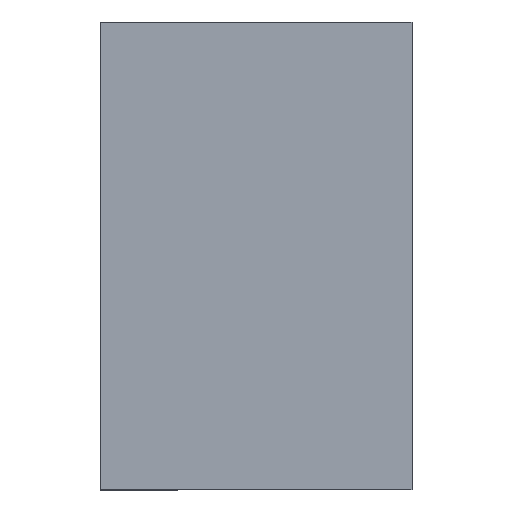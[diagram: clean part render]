
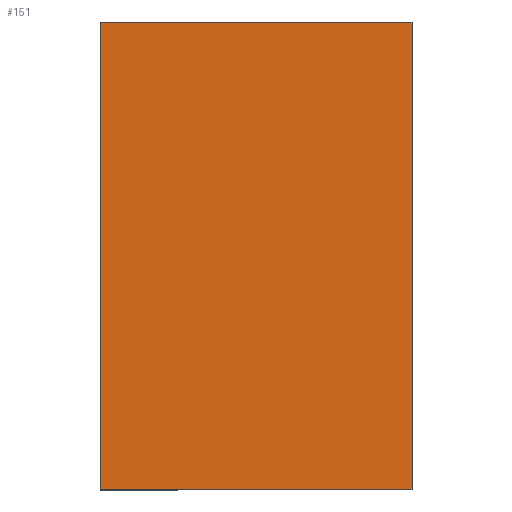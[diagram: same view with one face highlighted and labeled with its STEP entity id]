
A CAD part, front view. The second image highlights one B-rep face of the part: STEP entity #151.
In plain terms, the highlighted planar face has unit normal (0, -1, 0).
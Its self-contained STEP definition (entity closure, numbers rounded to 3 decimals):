
#18 = EDGE_CURVE ( 'NONE', #561, #497, #474, .T. ) ;
#51 = CARTESIAN_POINT ( 'NONE',  ( 0., 0., 1350. ) ) ;
#73 = ORIENTED_EDGE ( 'NONE', *, *, #608, .F. ) ;
#83 = LINE ( 'NONE', #129, #175 ) ;
#86 = EDGE_CURVE ( 'NONE', #497, #123, #426, .T. ) ;
#88 = CARTESIAN_POINT ( 'NONE',  ( 0., 0., 1350. ) ) ;
#115 = VECTOR ( 'NONE', #575, 1000. ) ;
#123 = VERTEX_POINT ( 'NONE', #275 ) ;
#129 = CARTESIAN_POINT ( 'NONE',  ( 0., 0., 0. ) ) ;
#144 = DIRECTION ( 'NONE',  ( 0., -1., 0. ) ) ;
#148 = DIRECTION ( 'NONE',  ( -1., 0., 0. ) ) ;
#151 = ADVANCED_FACE ( 'NONE', ( #476 ), #483, .T. ) ;
#175 = VECTOR ( 'NONE', #368, 1000. ) ;
#177 = CARTESIAN_POINT ( 'NONE',  ( 0., 0., 0. ) ) ;
#180 = ORIENTED_EDGE ( 'NONE', *, *, #510, .F. ) ;
#228 = AXIS2_PLACEMENT_3D ( 'NONE', #51, #144, #239 ) ;
#239 = DIRECTION ( 'NONE',  ( 1., 0., 0. ) ) ;
#261 = ORIENTED_EDGE ( 'NONE', *, *, #86, .T. ) ;
#269 = DIRECTION ( 'NONE',  ( 0., 0., -1. ) ) ;
#271 = CARTESIAN_POINT ( 'NONE',  ( -900., 0., 1350. ) ) ;
#275 = CARTESIAN_POINT ( 'NONE',  ( -900., 0., 0. ) ) ;
#310 = CARTESIAN_POINT ( 'NONE',  ( 0., 0., 1350. ) ) ;
#356 = ORIENTED_EDGE ( 'NONE', *, *, #18, .T. ) ;
#368 = DIRECTION ( 'NONE',  ( -1., 0., 0. ) ) ;
#387 = CARTESIAN_POINT ( 'NONE',  ( 0., 0., 1350. ) ) ;
#402 = EDGE_LOOP ( 'NONE', ( #180, #73, #356, #261 ) ) ;
#424 = CARTESIAN_POINT ( 'NONE',  ( -900., 0., 1350. ) ) ;
#426 = LINE ( 'NONE', #271, #115 ) ;
#474 = LINE ( 'NONE', #387, #528 ) ;
#476 = FACE_OUTER_BOUND ( 'NONE', #402, .T. ) ;
#483 = PLANE ( 'NONE',  #228 ) ;
#497 = VERTEX_POINT ( 'NONE', #424 ) ;
#499 = VERTEX_POINT ( 'NONE', #177 ) ;
#510 = EDGE_CURVE ( 'NONE', #499, #123, #83, .T. ) ;
#528 = VECTOR ( 'NONE', #148, 1000. ) ;
#561 = VERTEX_POINT ( 'NONE', #310 ) ;
#575 = DIRECTION ( 'NONE',  ( 0., 0., -1. ) ) ;
#608 = EDGE_CURVE ( 'NONE', #561, #499, #609, .T. ) ;
#609 = LINE ( 'NONE', #88, #612 ) ;
#612 = VECTOR ( 'NONE', #269, 1000. ) ;
